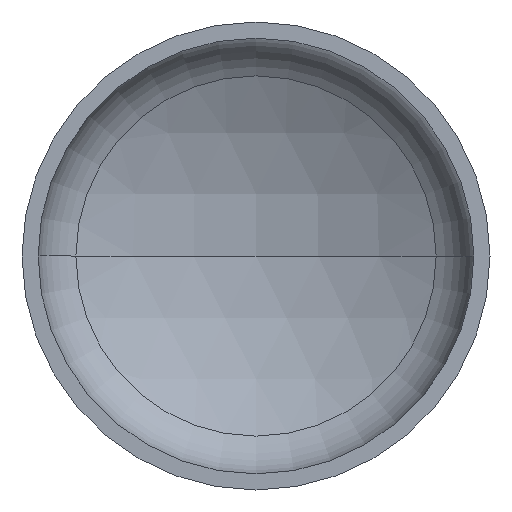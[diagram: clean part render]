
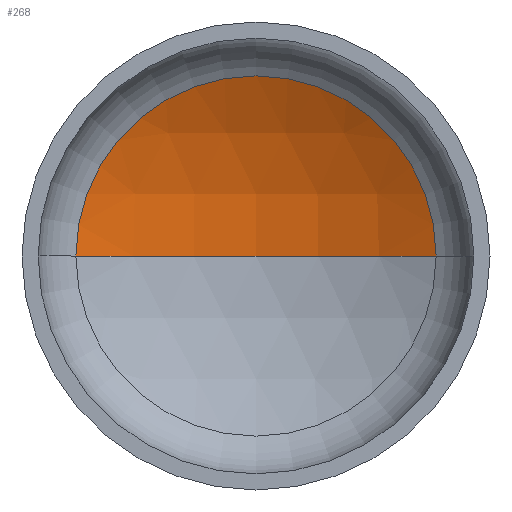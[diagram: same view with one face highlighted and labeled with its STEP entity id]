
A CAD part, front view. The second image highlights one B-rep face of the part: STEP entity #268.
In plain terms, the highlighted spherical face has radius 720 mm.
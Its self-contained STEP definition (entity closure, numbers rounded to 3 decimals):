
#15 = AXIS2_PLACEMENT_3D ( 'NONE', #182, #411, #349 ) ;
#17 = AXIS2_PLACEMENT_3D ( 'NONE', #210, #375, #159 ) ;
#18 = EDGE_LOOP ( 'NONE', ( #100, #33, #36 ) ) ;
#24 = AXIS2_PLACEMENT_3D ( 'NONE', #105, #299, #302 ) ;
#33 = ORIENTED_EDGE ( 'NONE', *, *, #355, .T. ) ;
#36 = ORIENTED_EDGE ( 'NONE', *, *, #352, .T. ) ;
#38 = AXIS2_PLACEMENT_3D ( 'NONE', #257, #222, #208 ) ;
#76 = VERTEX_POINT ( 'NONE', #251 ) ;
#100 = ORIENTED_EDGE ( 'NONE', *, *, #361, .F. ) ;
#105 = CARTESIAN_POINT ( 'NONE',  ( 0., 222.738, 0. ) ) ;
#107 = CIRCLE ( 'NONE', #15, 720. ) ;
#109 = VERTEX_POINT ( 'NONE', #348 ) ;
#122 = VERTEX_POINT ( 'NONE', #226 ) ;
#159 = DIRECTION ( 'NONE',  ( -1., 0., 0. ) ) ;
#182 = CARTESIAN_POINT ( 'NONE',  ( 0., -408.487, 0. ) ) ;
#208 = DIRECTION ( 'NONE',  ( -1., 0., 0. ) ) ;
#210 = CARTESIAN_POINT ( 'NONE',  ( 0., -408.487, 0. ) ) ;
#222 = DIRECTION ( 'NONE',  ( 0., 0., -1. ) ) ;
#226 = CARTESIAN_POINT ( 'NONE',  ( 346.345, 222.738, 0. ) ) ;
#229 = FACE_OUTER_BOUND ( 'NONE', #18, .T. ) ;
#251 = CARTESIAN_POINT ( 'NONE',  ( -346.345, 222.738, 0. ) ) ;
#257 = CARTESIAN_POINT ( 'NONE',  ( 0., -408.487, 0. ) ) ;
#268 = ADVANCED_FACE ( 'NONE', ( #229 ), #400, .F. ) ;
#299 = DIRECTION ( 'NONE',  ( 0., -1., 0. ) ) ;
#302 = DIRECTION ( 'NONE',  ( 1., 0., 0. ) ) ;
#345 = CIRCLE ( 'NONE', #17, 720. ) ;
#348 = CARTESIAN_POINT ( 'NONE',  ( 0., 311.513, 0. ) ) ;
#349 = DIRECTION ( 'NONE',  ( 1., 0., 0. ) ) ;
#352 = EDGE_CURVE ( 'NONE', #122, #76, #391, .T. ) ;
#355 = EDGE_CURVE ( 'NONE', #109, #122, #345, .T. ) ;
#361 = EDGE_CURVE ( 'NONE', #109, #76, #107, .T. ) ;
#375 = DIRECTION ( 'NONE',  ( 0., 0., -1. ) ) ;
#391 = CIRCLE ( 'NONE', #24, 346.345 ) ;
#400 = SPHERICAL_SURFACE ( 'NONE', #38, 720. ) ;
#411 = DIRECTION ( 'NONE',  ( 0., 0., 1. ) ) ;
